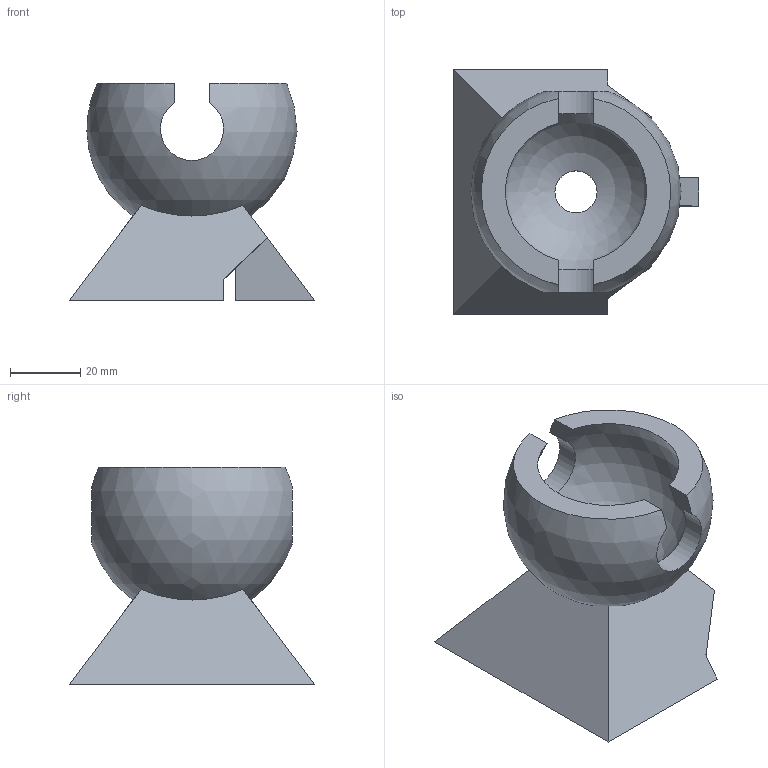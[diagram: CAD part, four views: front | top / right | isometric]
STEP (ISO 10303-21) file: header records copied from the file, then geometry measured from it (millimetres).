
FILE_DESCRIPTION(/* description */ (''),/* implementation_level */ '2;1');
FILE_NAME(/* name */ '730709R1006 v1.step',/* time_stamp */ '2023-07-14T11:45:27+09:00',/* author */ (''),/* organization */ (''),/* preprocessor_version */ 'ST-DEVELOPER v19.2',/* originating_system */ 'Autodesk Translation Framework v12.6.0.85',/* authorisation */ '');
FILE_SCHEMA (('AUTOMOTIVE_DESIGN { 1 0 10303 214 3 1 1 }'));
Length unit declared in the file: millimetre
Products named in the file (1): 730709R1006
Bounding box: 70 x 70 x 62 mm (x, y, z)
Volume: 80427.5 mm3; surface area: 23558.4 mm2
Topology: 1 solids, 1 shells, 25 faces, 71 edges, 47 vertices
Faces by surface type: plane 19, cylinder 4, sphere 2
Full cylindrical faces by diameter (mm): 12 x1, 26 x1
Entity records: 867 total; most frequent: DIRECTION 156, CARTESIAN_POINT 144, ORIENTED_EDGE 142, EDGE_CURVE 71, AXIS2_PLACEMENT_3D 59, VERTEX_POINT 47, LINE 38, VECTOR 38
